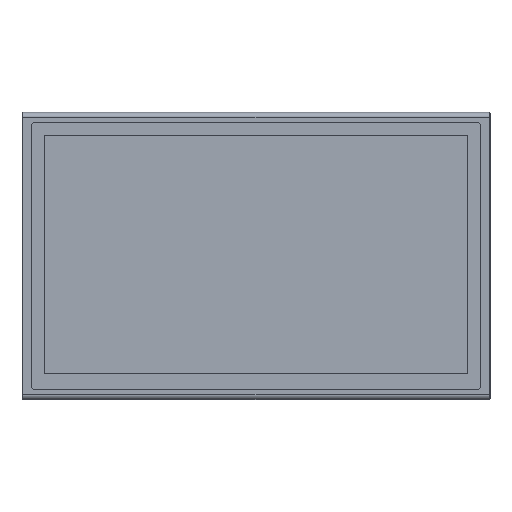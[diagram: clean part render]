
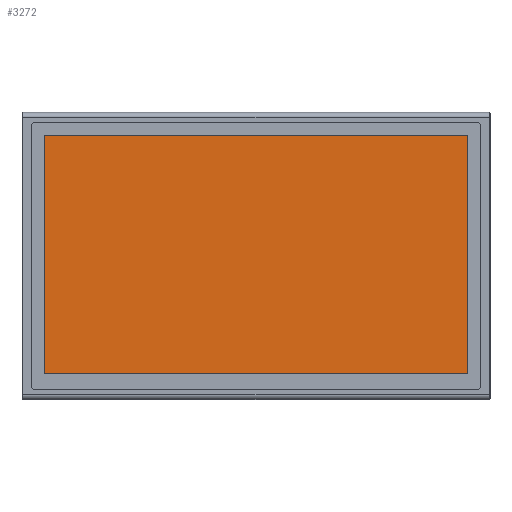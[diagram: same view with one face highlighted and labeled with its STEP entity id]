
A CAD part, top view. The second image highlights one B-rep face of the part: STEP entity #3272.
In plain terms, the highlighted planar face has unit normal (0, 0, 1).
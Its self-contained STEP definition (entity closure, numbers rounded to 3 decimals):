
#1008=DIRECTION('',(-1.,0.,0.));
#1009=VECTOR('',#1008,527.);
#1010=CARTESIAN_POINT('',(263.5,150.2,-0.2));
#1011=LINE('',#1010,#1009);
#1012=DIRECTION('',(0.,1.,0.));
#1013=VECTOR('',#1012,296.5);
#1014=CARTESIAN_POINT('',(263.5,-146.3,-0.2));
#1015=LINE('',#1014,#1013);
#1016=DIRECTION('',(1.,0.,0.));
#1017=VECTOR('',#1016,527.);
#1018=CARTESIAN_POINT('',(-263.5,-146.3,-0.2));
#1019=LINE('',#1018,#1017);
#1020=DIRECTION('',(0.,-1.,0.));
#1021=VECTOR('',#1020,296.5);
#1022=CARTESIAN_POINT('',(-263.5,150.2,-0.2));
#1023=LINE('',#1022,#1021);
#1688=CARTESIAN_POINT('',(-263.5,150.2,-0.2));
#1689=VERTEX_POINT('',#1688);
#1690=CARTESIAN_POINT('',(263.5,150.2,-0.2));
#1691=VERTEX_POINT('',#1690);
#1692=CARTESIAN_POINT('',(263.5,-146.3,-0.2));
#1693=VERTEX_POINT('',#1692);
#1694=CARTESIAN_POINT('',(-263.5,-146.3,-0.2));
#1695=VERTEX_POINT('',#1694);
#3261=CARTESIAN_POINT('',(0.,1.95,-0.2));
#3262=DIRECTION('',(0.,0.,1.));
#3263=DIRECTION('',(1.,0.,0.));
#3264=AXIS2_PLACEMENT_3D('',#3261,#3262,#3263);
#3265=PLANE('',#3264);
#3266=ORIENTED_EDGE('',*,*,#3213,.F.);
#3267=ORIENTED_EDGE('',*,*,#3228,.F.);
#3268=ORIENTED_EDGE('',*,*,#3242,.F.);
#3269=ORIENTED_EDGE('',*,*,#3255,.F.);
#3270=EDGE_LOOP('',(#3266,#3267,#3268,#3269));
#3271=FACE_OUTER_BOUND('',#3270,.F.);
#3272=ADVANCED_FACE('',(#3271),#3265,.T.);
#3213=EDGE_CURVE('',#1691,#1689,#1011,.T.);
#3228=EDGE_CURVE('',#1693,#1691,#1015,.T.);
#3242=EDGE_CURVE('',#1695,#1693,#1019,.T.);
#3255=EDGE_CURVE('',#1689,#1695,#1023,.T.);
